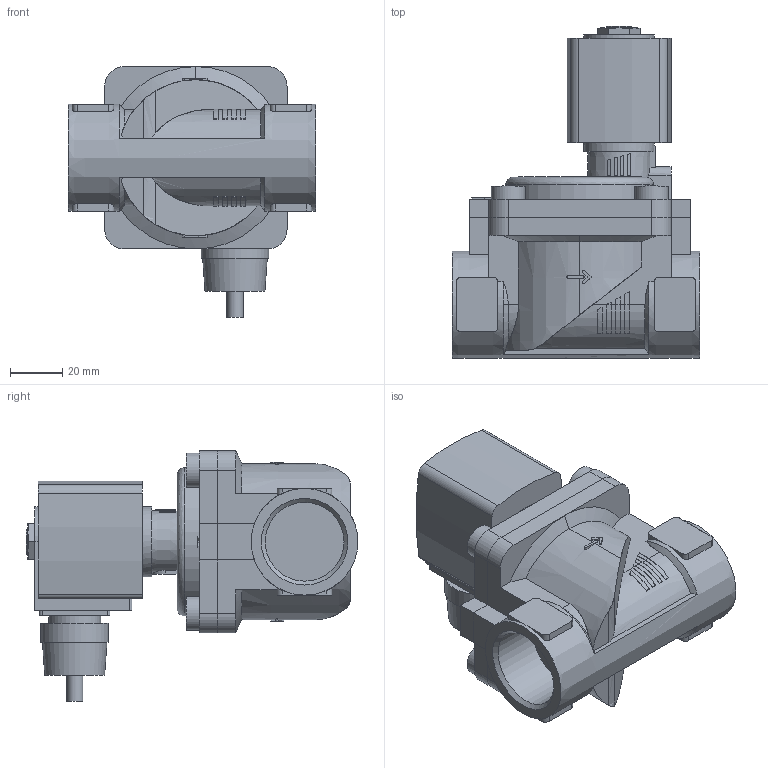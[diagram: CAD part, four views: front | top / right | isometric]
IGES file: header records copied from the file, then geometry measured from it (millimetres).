
Start section: Data from Parasolid IGES Translator 26.0.171, Copyright(c) 2006 Siemens PLM Software. All Rights Reserved.
Global section: file name: 6281-387681-2_2-Way_Solenoid_Valve__Servo-assisted__General_Purpose.igs; native system: By Siemens PLM Incorporated; preprocessor: XPlus GENERIC/IGES 26.0.171; author: Noname; organization: Noname; date: 20240828.071346; units: millimetre
Bounding box: 95 x 127.5 x 96.3 mm (x, y, z)
Surface area: 58110.4 mm2 (no closed solid volume)
Topology: 0 solids, 0 shells, 320 faces, 1702 edges, 1687 vertices
Faces by surface type: extrusion 195, revolution 125
